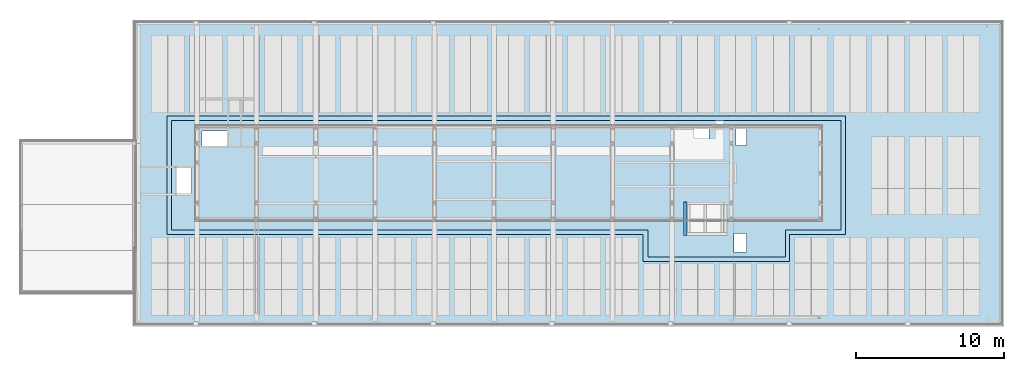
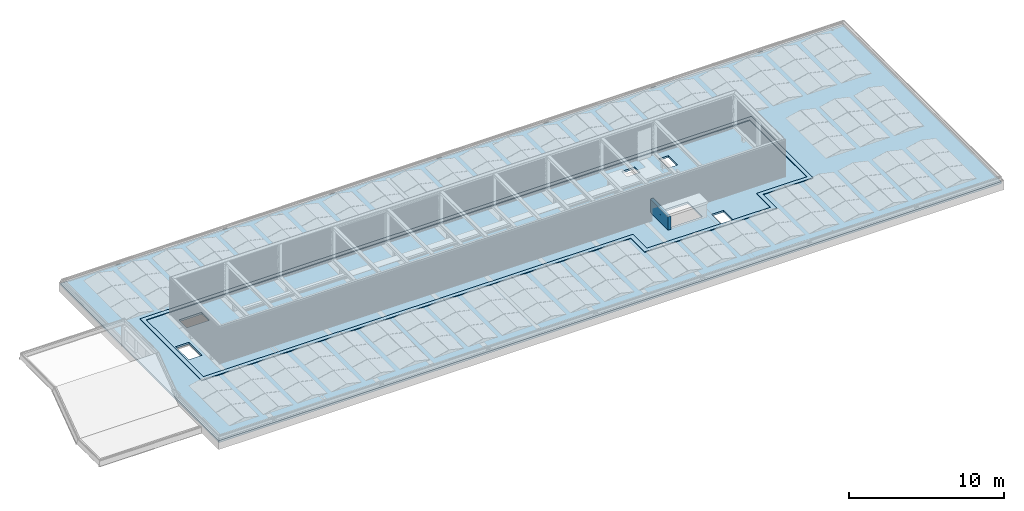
# One storey, part 15 of 63: 2 slabs, 1 wall, 6 openings.
"""IFC2X3 building model written with IfcOpenShell, lengths in millimetres."""

from ifc_helpers import new_model, entity, si_unit, converted_unit, derived_unit, money_unit, direction, frame, origin_with_axes, place, context, subcontext, project, spatial, faceted_brep, material, type_object, element, save


model = new_model("IFC2X3")

# Units and contexts
model_context = context("Model", 3, precision=0.01, world=origin_with_axes(), true_north=direction((0.0, 1.0)))
body_context = subcontext(model_context, "Body", "Model", "MODEL_VIEW")
ifc_project = project(units=[si_unit("LENGTHUNIT", "METRE", prefix="MILLI"), si_unit("AREAUNIT", "SQUARE_METRE"), si_unit("VOLUMEUNIT", "CUBIC_METRE"), converted_unit("PLANEANGLEUNIT", "DEGREE", entity("IfcPlaneAngleMeasure", 0.0174532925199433), si_unit("PLANEANGLEUNIT", "RADIAN"), dimensions=[0, 0, 0, 0, 0, 0, 0]), money_unit("EUR"), converted_unit("TIMEUNIT", "Year", entity("IfcTimeMeasure", 31557600.0), si_unit("TIMEUNIT", "SECOND"), dimensions=[0, 0, 1, 0, 0, 0, 0]), si_unit("MASSUNIT", "GRAM", prefix="KILO"), si_unit("THERMODYNAMICTEMPERATUREUNIT", "DEGREE_CELSIUS"), si_unit("LUMINOUSINTENSITYUNIT", "LUMEN"), si_unit("ENERGYUNIT", "JOULE", prefix="MEGA"), derived_unit("THERMALCONDUCTANCEUNIT", [(si_unit("POWERUNIT", "WATT"), 1), (si_unit("LENGTHUNIT", "METRE"), -1), (si_unit("THERMODYNAMICTEMPERATUREUNIT", "KELVIN"), -1)]), derived_unit("SPECIFICHEATCAPACITYUNIT", [(si_unit("ENERGYUNIT", "JOULE"), 1), (si_unit("MASSUNIT", "GRAM", prefix="KILO"), -1), (si_unit("THERMODYNAMICTEMPERATUREUNIT", "KELVIN"), -1)]), derived_unit("MASSDENSITYUNIT", [(si_unit("MASSUNIT", "GRAM", prefix="KILO"), 1), (si_unit("VOLUMEUNIT", "CUBIC_METRE"), -1)])], contexts=[model_context])

# Site, building, storey
site_placement = place(None, origin_with_axes())
site = spatial("IfcSite", under=ifc_project, at=site_placement, Name="<site naam>", CompositionType="ELEMENT")
building_placement = place(site_placement, origin_with_axes())
building = spatial("IfcBuilding", under=site, at=building_placement, Name="<Naam gebouw>", CompositionType="ELEMENT")
storey_placement = place(building_placement, frame((0.0, 0.0, 12770.0), z_axis=(0.0, 0.0, 1.0), x_axis=(1.0, 0.0, 0.0)))
storey = spatial("IfcBuildingStorey", under=building, at=storey_placement, Name="04 4e verdieping", CompositionType="ELEMENT", Elevation=12770.0)

# Slab, openings
ifc_material_1 = material(Name="beton_gewapend_vloer C")
slab_type_1 = type_object("IfcSlabType", Name="beton_gewapend_vloer C  150", PredefinedType="NOTDEFINED")
slab_1_placement = place(storey_placement, frame((70225.0, 20265.00000000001, -69.99998530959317), z_axis=(0.0, 0.0, 1.0), x_axis=(1.0, 0.0, 0.0)))
slab_1 = element("IfcSlab", 1, at=slab_1_placement, inside=storey, type_object=slab_type_1, material=ifc_material_1, Name="27_Vloer_beton_gewapend_vloer", PredefinedType="NOTDEFINED", context=body_context, shape_type="Brep", body=[
    faceted_brep([(0.0, 0.0, 0.0), (0.0, 0.0, -150.0000000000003), (-58487.99999999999, 0.0, -150.0000000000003), (-58487.99999999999, 0.0, 0.0), (0.0, -20518.00000000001, 0.0), (0.0, -20518.00000000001, -150.0000000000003), (-58487.99999999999, -20517.99999999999, -150.0000000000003), (-58487.99999999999, -20517.99999999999, 0.0)], [[[0, 1, 2, 3]], [[4, 5, 1, 0]], [[2, 1, 5, 6]], [[3, 2, 6, 7]], [[4, 0, 3, 7]], [[7, 6, 5, 4]]]),
])
opening_1_placement = place(slab_1_placement, frame((-70225.0, -20265.00000000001, -12700.00001469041), z_axis=(0.0, 0.0, 1.0), x_axis=(1.0, 0.0, 0.0)))
element("IfcOpeningElement", 2, at=opening_1_placement, cuts=slab_1, Name="27_Opening_", context=body_context, shape_type="Brep", body=[
    faceted_brep([(14625.00000000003, 8649.724088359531, 12850.00001469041), (14625.00000000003, 10349.72408835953, 12850.00001469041), (14625.00000000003, 10349.72408835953, 12400.00001469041), (14625.00000000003, 8649.724088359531, 12400.00001469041), (15625.00000000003, 8649.724088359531, 12850.00001469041), (15625.00000000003, 10349.72408835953, 12850.00001469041), (15625.00000000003, 10349.72408835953, 12400.00001469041), (15625.00000000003, 8649.724088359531, 12400.00001469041)], [[[0, 1, 2, 3]], [[0, 4, 5, 1]], [[1, 5, 6, 2]], [[3, 2, 6, 7]], [[4, 0, 3, 7]], [[5, 4, 7, 6]]]),
])
opening_2_placement = place(slab_1_placement, frame((-70225.0, -20265.00000000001, -12700.00001469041), z_axis=(0.0, 0.0, 1.0), x_axis=(1.0, 0.0, 0.0)))
element("IfcOpeningElement", 3, at=opening_2_placement, cuts=slab_1, Name="27_Opening_", context=body_context, shape_type="Brep", body=[
    faceted_brep([(50500.00007868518, 12344.09168282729, 12850.00001469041), (49500.00007868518, 12344.09168282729, 12850.00001469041), (49500.00007868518, 12344.09168282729, 12400.00001469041), (50500.00007868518, 12344.09168282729, 12400.00001469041), (50500.00007868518, 13044.09168282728, 12850.00001469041), (49500.00007868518, 13044.09168282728, 12850.00001469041), (49500.00007868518, 13044.09168282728, 12400.00001469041), (50500.00007868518, 13044.09168282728, 12400.00001469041)], [[[0, 1, 2, 3]], [[0, 4, 5, 1]], [[1, 5, 6, 2]], [[3, 2, 6, 7]], [[4, 0, 3, 7]], [[5, 4, 7, 6]]]),
])
opening_3_placement = place(slab_1_placement, frame((-70225.0, -20265.00000000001, -12700.00001469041), z_axis=(0.0, 0.0, 1.0), x_axis=(1.0, 0.0, 0.0)))
element("IfcOpeningElement", 4, at=opening_3_placement, cuts=slab_1, Name="27_Opening_", context=body_context, shape_type="Brep", body=[
    faceted_brep([(16325.00000000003, 11849.99999046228, 12850.00001469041), (16325.00000000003, 12849.99999046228, 12850.00001469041), (16325.00000000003, 12849.99999046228, 12400.00001469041), (16325.00000000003, 11849.99999046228, 12400.00001469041), (18025.00000000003, 11849.99999046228, 12850.00001469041), (18025.00000000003, 12849.99999046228, 12850.00001469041), (18025.00000000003, 12849.99999046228, 12400.00001469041), (18025.00000000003, 11849.99999046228, 12400.00001469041)], [[[0, 1, 2, 3]], [[0, 4, 5, 1]], [[1, 5, 6, 2]], [[3, 2, 6, 7]], [[4, 0, 3, 7]], [[5, 4, 7, 6]]]),
])
opening_4_placement = place(slab_1_placement, frame((-70225.0, -20265.00000000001, -12700.00001469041), z_axis=(0.0, 0.0, 1.0), x_axis=(1.0, 0.0, 0.0)))
element("IfcOpeningElement", 5, at=opening_4_placement, cuts=slab_1, Name="27_Opening_", context=body_context, shape_type="Brep", body=[
    faceted_brep([(49000.00000000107, 6004.99999853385, 12850.00001469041), (49000.00000000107, 7905.00000000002, 12850.00001469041), (49000.00000000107, 7905.00000000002, 12400.00001469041), (49000.00000000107, 6004.99999853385, 12400.00001469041), (51500.00000000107, 6004.99999853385, 12850.00001469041), (51500.00000000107, 7905.00000000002, 12850.00001469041), (51500.00000000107, 7905.00000000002, 12400.00001469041), (51500.00000000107, 6004.99999853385, 12400.00001469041)], [[[0, 1, 2, 3]], [[0, 4, 5, 1]], [[1, 5, 6, 2]], [[3, 2, 6, 7]], [[4, 0, 3, 7]], [[5, 4, 7, 6]]]),
])
opening_5_placement = place(slab_1_placement, frame((-70225.0, -20265.00000000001, -12700.00001469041), z_axis=(0.0, 0.0, 1.0), x_axis=(1.0, 0.0, 0.0)))
element("IfcOpeningElement", 6, at=opening_5_placement, cuts=slab_1, Name="27_Opening_", context=body_context, shape_type="Brep", body=[
    faceted_brep([(52325.00000000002, 11875.00000000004, 12850.00001469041), (52325.00000000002, 13075.00000000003, 12850.00001469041), (52325.00000000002, 13075.00000000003, 12400.00001469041), (52325.00000000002, 11875.00000000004, 12400.00001469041), (53025.00000000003, 11875.00000000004, 12850.00001469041), (53025.00000000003, 13075.00000000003, 12850.00001469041), (53025.00000000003, 13075.00000000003, 12400.00001469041), (53025.00000000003, 11875.00000000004, 12400.00001469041)], [[[0, 1, 2, 3]], [[0, 4, 5, 1]], [[1, 5, 6, 2]], [[3, 2, 6, 7]], [[4, 0, 3, 7]], [[5, 4, 7, 6]]]),
])
opening_6_placement = place(slab_1_placement, frame((-70225.0, -20265.00000000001, -12700.00001469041), z_axis=(0.0, 0.0, 1.0), x_axis=(1.0, 0.0, 0.0)))
element("IfcOpeningElement", 7, at=opening_6_placement, cuts=slab_1, Name="27_Opening_", context=body_context, shape_type="Brep", body=[
    faceted_brep([(52134.99988079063, 4679.999968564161, 12850.00001469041), (52134.99988079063, 5935.000000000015, 12850.00001469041), (52134.99988079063, 5935.000000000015, 12400.00001469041), (52134.99988079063, 4679.999968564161, 12400.00001469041), (53024.99994340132, 4679.999968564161, 12850.00001469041), (53024.99994340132, 5935.000000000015, 12850.00001469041), (53024.99994340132, 5935.000000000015, 12400.00001469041), (53024.99994340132, 4679.999968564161, 12400.00001469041)], [[[0, 1, 2, 3]], [[0, 4, 5, 1]], [[1, 5, 6, 2]], [[3, 2, 6, 7]], [[4, 0, 3, 7]], [[5, 4, 7, 6]]]),
])

# Slab
ifc_material_2 = material(Name="ALG - ALGEMEEN")
slab_type_2 = type_object("IfcSlabType", Name="ALG - ALGEMEEN 45", PredefinedType="NOTDEFINED")
slab_2_placement = place(storey_placement, frame((13983.974425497, 13862.49999999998, 179.9607845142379), z_axis=(0.0, 0.0, 1.0), x_axis=(1.0, 0.0, 0.0)))
element("IfcSlab", 8, at=slab_2_placement, inside=storey, type_object=slab_type_2, material=ifc_material_2, Name="47_Vloer_ALG", PredefinedType="NOTDEFINED", context=body_context, shape_type="Brep", body=[
    faceted_brep([(0.0, 0.0, 44.99999999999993), (0.0, 0.0, 0.0), (0.0, -7999.999999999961, 0.0), (0.0, -7999.999999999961, 44.99999999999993), (45699.97442549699, 0.0, 44.99999999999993), (45699.97442549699, 0.0, 0.0), (45699.97442549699, -7999.999999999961, 0.0), (41948.82557450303, -7999.999999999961, 0.0), (41948.82557450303, -9799.999999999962, 0.0), (32074.974425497, -9799.999999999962, 0.0), (32074.974425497, -7999.999999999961, 0.0), (45399.93332952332, -299.9636236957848, 0.0), (299.9744254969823, -299.9636236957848, 0.0), (299.9744254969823, -7699.985377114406, 0.0), (32399.81436679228, -7699.985377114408, 0.0), (32399.81436679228, -9499.983532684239, 0.0), (41648.85795812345, -9499.983532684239, 0.0), (41648.85795812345, -7699.985377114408, 0.0), (45399.93332952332, -7699.985377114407, 0.0), (32074.974425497, -7999.999999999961, 44.99999999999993), (32074.974425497, -9799.999999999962, 44.99999999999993), (41948.82557450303, -9799.999999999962, 44.99999999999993), (41948.82557450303, -7999.999999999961, 44.99999999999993), (45699.97442549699, -7999.999999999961, 44.99999999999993), (299.9744254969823, -7699.985377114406, 44.99999999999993), (299.9744254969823, -299.9636236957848, 44.99999999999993), (45399.93332952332, -299.9636236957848, 44.99999999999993), (45399.93332952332, -7699.985377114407, 44.99999999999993), (41648.85795812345, -7699.985377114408, 44.99999999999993), (41648.85795812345, -9499.983532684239, 44.99999999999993), (32399.81436679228, -9499.983532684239, 44.99999999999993), (32399.81436679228, -7699.985377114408, 44.99999999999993)], [[[0, 1, 2, 3]], [[4, 5, 1, 0]], [[2, 1, 5, 6, 7, 8, 9, 10], [11, 12, 13, 14, 15, 16, 17, 18]], [[3, 2, 10, 19]], [[4, 0, 3, 19, 20, 21, 22, 23], [24, 25, 26, 27, 28, 29, 30, 31]], [[23, 6, 5, 4]], [[22, 7, 6, 23]], [[21, 8, 7, 22]], [[20, 9, 8, 21]], [[19, 10, 9, 20]], [[25, 12, 11, 26]], [[24, 13, 12, 25]], [[31, 14, 13, 24]], [[30, 15, 14, 31]], [[29, 16, 15, 30]], [[28, 17, 16, 29]], [[27, 18, 17, 28]], [[26, 11, 18, 27]]]),
])

# Wall
ifc_material_3 = material(Name="kalkzandsteen")
wall_type = type_object("IfcWallType", Name="kalkzandsteen 214", PredefinedType="NOTDEFINED")
wall_placement = place(storey_placement, frame((49000.00000000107, 6004.99999853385, -70.00000000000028), z_axis=(0.0, 0.0, 1.0), x_axis=(0.0, 1.0, 0.0)))
element("IfcWall", 9, at=wall_placement, inside=storey, type_object=wall_type, material=ifc_material_3, Name="22_Binnenwand_kalkzandsteen", context=body_context, shape_type="Brep", body=[
    faceted_brep([(780.1132328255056, 213.9999999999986, 1080.352311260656), (780.1132328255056, 0.0, 1080.352311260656), (785.5551564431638, 0.0, 1072.906391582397), (785.5551564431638, 213.9999999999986, 1072.906391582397), (-214.0000000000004, 0.0, 1063.000000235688), (-214.0000000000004, 213.9999999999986, 1063.000000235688), (2050.0, 0.0, 1102.518267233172), (781.1473080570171, 0.0, 1080.370361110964), (786.0414875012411, 0.0, 1073.379405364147), (792.6291667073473, 0.0, 1064.639772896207), (794.999903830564, 0.0, 1053.955284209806), (792.6291690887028, 0.0, 1043.270795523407), (786.0414898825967, 0.0, 1034.531163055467), (780.1163846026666, 0.0, 1026.067609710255), (777.99990621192, 0.0, 1015.955284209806), (780.1163846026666, 0.0, 1005.842958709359), (786.0414898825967, 0.0, 997.3794053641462), (792.6291690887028, 0.0, 988.6397728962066), (794.9999062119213, 0.0, 977.9552842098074), (792.6291714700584, 0.0, 967.2707955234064), (786.0414922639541, 0.0, 958.5311630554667), (780.1163869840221, 0.0, 950.0676097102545), (777.9999085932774, 0.0, 939.9552842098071), (780.1163869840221, 0.0, 929.842958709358), (786.0414922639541, 0.0, 921.3794053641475), (792.6291714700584, 0.0, 912.6397728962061), (794.9999085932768, 0.0, 901.9552842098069), (792.6291738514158, 0.0, 891.2707955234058), (786.0414946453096, 0.0, 882.5311630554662), (780.1163893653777, 0.0, 874.0676097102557), (777.9999109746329, 0.0, 863.9552842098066), (780.1163893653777, 0.0, 853.8429587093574), (786.0414946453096, 0.0, 845.379405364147), (792.629173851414, 0.0, 836.6397728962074), (794.9999109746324, 0.0, 825.9552842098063), (792.6291762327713, 0.0, 815.2707955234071), (786.0414970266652, 0.0, 806.5311630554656), (780.1163917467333, 0.0, 798.0676097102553), (777.9999133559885, 0.0, 787.9552842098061), (780.1163917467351, 0.0, 777.8429587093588), (786.0414970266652, 0.0, 769.3794053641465), (792.6291762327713, 0.0, 760.6397728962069), (794.9999133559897, 0.0, 749.9552842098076), (792.6291762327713, 0.0, 739.2707955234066), (786.0414970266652, 0.0, 730.531163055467), (780.1163917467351, 0.0, 722.0676097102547), (777.9999133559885, 0.0, 711.9552842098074), (780.1163917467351, 0.0, 701.8429587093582), (786.0414970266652, 0.0, 693.3794053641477), (792.6291762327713, 0.0, 684.6397728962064), (794.9999133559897, 0.0, 673.9552842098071), (792.6291786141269, 0.0, 663.270795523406), (786.0414994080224, 0.0, 654.5311630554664), (780.1163941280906, 0.0, 646.067609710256), (777.9999157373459, 0.0, 635.9552842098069), (780.1163941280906, 0.0, 625.8429587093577), (786.0414994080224, 0.0, 617.3794053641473), (792.6291786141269, 0.0, 608.6397728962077), (794.9999157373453, 0.0, 597.9552842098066), (792.6291809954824, 0.0, 587.2707955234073), (786.041501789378, 0.0, 578.5311630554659), (780.1163965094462, 0.0, 570.0676097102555), (777.9999181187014, 0.0, 559.9552842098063), (780.1163965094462, 0.0, 549.842958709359), (786.041501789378, 0.0, 541.3794053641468), (792.6291809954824, 0.0, 532.6397728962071), (794.9999181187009, 0.0, 521.9552842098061), (792.6291833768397, 0.0, 511.2707955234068), (786.0415041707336, 0.0, 502.5311630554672), (780.1163988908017, 0.0, 494.067609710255), (777.999920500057, 0.0, 483.9552842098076), (780.1163988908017, 0.0, 473.8429587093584), (786.0415041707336, 0.0, 465.3794053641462), (792.6291833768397, 0.0, 456.6397728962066), (794.9999205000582, 0.0, 445.9552842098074), (792.6291857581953, 0.0, 435.2707955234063), (786.0415065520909, 0.0, 426.5311630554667), (780.1164012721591, 0.0, 418.0676097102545), (777.9999228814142, 0.0, 407.9552842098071), (780.1164012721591, 0.0, 397.842958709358), (786.0415065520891, 0.0, 389.3794053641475), (792.6291857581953, 0.0, 380.6397728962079), (794.9999228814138, 0.0, 369.9552842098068), (793.999920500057, 0.0, 369.9552842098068), (791.7751199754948, 0.0, 380.3209698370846), (785.55517549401, 0.0, 388.9063915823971), (779.2572815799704, 0.0, 397.5234938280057), (776.9999228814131, 0.0, 407.9552842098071), (779.2572815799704, 0.0, 418.3870745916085), (785.5551754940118, 0.0, 427.004176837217), (791.7751199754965, 0.0, 435.5895985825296), (793.9999181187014, 0.0, 445.9552842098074), (791.7751175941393, 0.0, 456.3209698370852), (785.5551731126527, 0.0, 464.9063915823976), (779.2572791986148, 0.0, 473.5234938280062), (776.9999205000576, 0.0, 483.9552842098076), (779.2572791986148, 0.0, 494.3870745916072), (785.5551731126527, 0.0, 503.0041768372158), (791.7751175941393, 0.0, 511.5895985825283), (793.9999157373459, 0.0, 521.9552842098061), (791.7751152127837, 0.0, 532.3209698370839), (785.5551707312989, 0.0, 540.9063915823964), (779.2572768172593, 0.0, 549.5234938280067), (776.999918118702, 0.0, 559.9552842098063), (779.2572768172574, 0.0, 570.3870745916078), (785.5551707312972, 0.0, 579.0041768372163), (791.7751152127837, 0.0, 587.5895985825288), (793.9999133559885, 0.0, 597.9552842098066), (791.7751128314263, 0.0, 608.3209698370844), (785.5551683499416, 0.0, 616.9063915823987), (779.2572744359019, 0.0, 625.5234938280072), (776.9999157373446, 0.0, 635.9552842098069), (779.2572744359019, 0.0, 646.3870745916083), (785.5551683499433, 0.0, 655.0041768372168), (791.7751128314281, 0.0, 663.5895985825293), (793.9999109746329, 0.0, 673.9552842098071), (791.7751104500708, 0.0, 684.3209698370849), (785.555165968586, 0.0, 692.9063915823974), (779.2572720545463, 0.0, 701.5234938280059), (776.9999133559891, 0.0, 711.9552842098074), (779.2572720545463, 0.0, 722.387074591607), (785.555165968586, 0.0, 731.0041768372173), (791.7751104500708, 0.0, 739.5895985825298), (793.9999109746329, 0.0, 749.9552842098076), (791.7751104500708, 0.0, 760.3209698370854), (785.555165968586, 0.0, 768.9063915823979), (779.2572720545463, 0.0, 777.5234938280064), (776.9999133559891, 0.0, 787.9552842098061), (779.2572720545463, 0.0, 798.3870745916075), (785.555165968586, 0.0, 807.004176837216), (791.7751104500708, 0.0, 815.5895985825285), (793.9999085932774, 0.0, 825.9552842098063), (791.7751080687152, 0.0, 836.3209698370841), (785.5551635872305, 0.0, 844.9063915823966), (779.2572696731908, 0.0, 853.5234938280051), (776.9999109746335, 0.0, 863.9552842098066), (779.2572696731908, 0.0, 874.387074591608), (785.5551635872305, 0.0, 883.0041768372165), (791.7751080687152, 0.0, 891.5895985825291), (793.9999062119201, 0.0, 901.9552842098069), (791.7751056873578, 0.0, 912.3209698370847), (785.5551612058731, 0.0, 920.9063915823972), (779.2572672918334, 0.0, 929.5234938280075), (776.9999085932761, 0.0, 939.9552842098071), (779.2572672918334, 0.0, 950.3870745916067), (785.5551612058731, 0.0, 959.0041768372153), (791.7751056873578, 0.0, 967.5895985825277), (793.9999038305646, 0.0, 977.9552842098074), (791.7751033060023, 0.0, 988.3209698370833), (785.5551588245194, 0.0, 996.9063915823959), (779.2572649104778, 0.0, 1005.523493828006), (776.9999062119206, 0.0, 1015.955284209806), (779.2572649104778, 0.0, 1026.387074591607), (785.5551588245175, 0.0, 1035.004176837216), (791.7751033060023, 0.0, 1043.589598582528), (793.999901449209, 0.0, 1053.955284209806), (791.7751009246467, 0.0, 1064.320969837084), (-214.0000000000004, 0.0, 0.0), (1900.0, 0.0, 0.0), (1900.0, 0.0, 70.00000000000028), (2050.0, 0.0, 70.00000000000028), (791.7751009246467, 213.9999999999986, 1064.320969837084), (781.1473080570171, 213.9999999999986, 1080.370361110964), (2050.0, 213.9999999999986, 1102.518267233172), (2050.0, 213.9999999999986, 70.00000000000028), (1900.0, 213.9999999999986, 70.00000000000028), (1900.0, 213.9999999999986, 0.0), (-214.0000000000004, 213.9999999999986, 0.0), (793.999901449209, 213.9999999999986, 1053.955284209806), (791.7751033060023, 213.9999999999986, 1043.589598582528), (785.5551588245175, 213.9999999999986, 1035.004176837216), (779.2572649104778, 213.9999999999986, 1026.387074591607), (776.9999062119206, 213.9999999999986, 1015.955284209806), (779.2572649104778, 213.9999999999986, 1005.523493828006), (785.5551588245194, 213.9999999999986, 996.9063915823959), (791.7751033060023, 213.9999999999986, 988.3209698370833), (793.9999038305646, 213.9999999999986, 977.9552842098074), (791.7751056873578, 213.9999999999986, 967.5895985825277), (785.5551612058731, 213.9999999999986, 959.0041768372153), (779.2572672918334, 213.9999999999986, 950.3870745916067), (776.9999085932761, 213.9999999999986, 939.9552842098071), (779.2572672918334, 213.9999999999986, 929.5234938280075), (785.5551612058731, 213.9999999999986, 920.9063915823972), (791.7751056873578, 213.9999999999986, 912.3209698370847), (793.9999062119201, 213.9999999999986, 901.9552842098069), (791.7751080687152, 213.9999999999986, 891.5895985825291), (785.5551635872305, 213.9999999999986, 883.0041768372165), (779.2572696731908, 213.9999999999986, 874.387074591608), (776.9999109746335, 213.9999999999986, 863.9552842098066), (779.2572696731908, 213.9999999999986, 853.5234938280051), (785.5551635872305, 213.9999999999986, 844.9063915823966), (791.7751080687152, 213.9999999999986, 836.3209698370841), (793.9999085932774, 213.9999999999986, 825.9552842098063), (791.7751104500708, 213.9999999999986, 815.5895985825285), (785.555165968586, 213.9999999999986, 807.004176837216), (779.2572720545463, 213.9999999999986, 798.3870745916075), (776.9999133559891, 213.9999999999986, 787.9552842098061), (779.2572720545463, 213.9999999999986, 777.5234938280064), (785.555165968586, 213.9999999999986, 768.9063915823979), (791.7751104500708, 213.9999999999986, 760.3209698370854), (793.9999109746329, 213.9999999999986, 749.9552842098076), (791.7751104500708, 213.9999999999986, 739.5895985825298), (785.555165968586, 213.9999999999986, 731.0041768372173), (779.2572720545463, 213.9999999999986, 722.387074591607), (776.9999133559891, 213.9999999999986, 711.9552842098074), (779.2572720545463, 213.9999999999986, 701.5234938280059), (785.555165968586, 213.9999999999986, 692.9063915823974), (791.7751104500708, 213.9999999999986, 684.3209698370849), (793.9999109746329, 213.9999999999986, 673.9552842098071), (791.7751128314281, 213.9999999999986, 663.5895985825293), (785.5551683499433, 213.9999999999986, 655.0041768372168), (779.2572744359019, 213.9999999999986, 646.3870745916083), (776.9999157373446, 213.9999999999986, 635.9552842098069), (779.2572744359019, 213.9999999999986, 625.5234938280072), (785.5551683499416, 213.9999999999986, 616.9063915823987), (791.7751128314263, 213.9999999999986, 608.3209698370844), (793.9999133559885, 213.9999999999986, 597.9552842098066), (791.7751152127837, 213.9999999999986, 587.5895985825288), (785.5551707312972, 213.9999999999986, 579.0041768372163), (779.2572768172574, 213.9999999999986, 570.3870745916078), (776.999918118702, 213.9999999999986, 559.9552842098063), (779.2572768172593, 213.9999999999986, 549.5234938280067), (785.5551707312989, 213.9999999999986, 540.9063915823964), (791.7751152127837, 213.9999999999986, 532.3209698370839), (793.9999157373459, 213.9999999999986, 521.9552842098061), (791.7751175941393, 213.9999999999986, 511.5895985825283), (785.5551731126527, 213.9999999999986, 503.0041768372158), (779.2572791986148, 213.9999999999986, 494.3870745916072), (776.9999205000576, 213.9999999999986, 483.9552842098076), (779.2572791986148, 213.9999999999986, 473.5234938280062), (785.5551731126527, 213.9999999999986, 464.9063915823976), (791.7751175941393, 213.9999999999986, 456.3209698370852), (793.9999181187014, 213.9999999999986, 445.9552842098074), (791.7751199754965, 213.9999999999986, 435.5895985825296), (785.5551754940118, 213.9999999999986, 427.004176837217), (779.2572815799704, 213.9999999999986, 418.3870745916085), (776.9999228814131, 213.9999999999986, 407.9552842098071), (779.2572815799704, 213.9999999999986, 397.5234938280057), (785.55517549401, 213.9999999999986, 388.9063915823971), (791.7751199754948, 213.9999999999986, 380.3209698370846), (793.999920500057, 213.9999999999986, 369.9552842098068), (794.9999228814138, 213.9999999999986, 369.9552842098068), (792.6291857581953, 213.9999999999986, 380.6397728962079), (786.0415065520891, 213.9999999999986, 389.3794053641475), (780.1164012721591, 213.9999999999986, 397.842958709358), (777.9999228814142, 213.9999999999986, 407.9552842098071), (780.1164012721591, 213.9999999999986, 418.0676097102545), (786.0415065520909, 213.9999999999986, 426.5311630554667), (792.6291857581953, 213.9999999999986, 435.2707955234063), (794.9999205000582, 213.9999999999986, 445.9552842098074), (792.6291833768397, 213.9999999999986, 456.6397728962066), (786.0415041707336, 213.9999999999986, 465.3794053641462), (780.1163988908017, 213.9999999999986, 473.8429587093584), (777.999920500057, 213.9999999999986, 483.9552842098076), (780.1163988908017, 213.9999999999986, 494.067609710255), (786.0415041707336, 213.9999999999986, 502.5311630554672), (792.6291833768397, 213.9999999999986, 511.2707955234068), (794.9999181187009, 213.9999999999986, 521.9552842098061), (792.6291809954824, 213.9999999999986, 532.6397728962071), (786.041501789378, 213.9999999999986, 541.3794053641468), (780.1163965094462, 213.9999999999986, 549.842958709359), (777.9999181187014, 213.9999999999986, 559.9552842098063), (780.1163965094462, 213.9999999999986, 570.0676097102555), (786.041501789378, 213.9999999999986, 578.5311630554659), (792.6291809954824, 213.9999999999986, 587.2707955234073), (794.9999157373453, 213.9999999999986, 597.9552842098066), (792.6291786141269, 213.9999999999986, 608.6397728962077), (786.0414994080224, 213.9999999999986, 617.3794053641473), (780.1163941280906, 213.9999999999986, 625.8429587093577), (777.9999157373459, 213.9999999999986, 635.9552842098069), (780.1163941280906, 213.9999999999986, 646.067609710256), (786.0414994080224, 213.9999999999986, 654.5311630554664), (792.6291786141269, 213.9999999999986, 663.270795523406), (794.9999133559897, 213.9999999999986, 673.9552842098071), (792.6291762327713, 213.9999999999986, 684.6397728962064), (786.0414970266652, 213.9999999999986, 693.3794053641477), (780.1163917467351, 213.9999999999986, 701.8429587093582), (777.9999133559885, 213.9999999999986, 711.9552842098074), (780.1163917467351, 213.9999999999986, 722.0676097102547), (786.0414970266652, 213.9999999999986, 730.531163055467), (792.6291762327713, 213.9999999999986, 739.2707955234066), (794.9999133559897, 213.9999999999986, 749.9552842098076), (792.6291762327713, 213.9999999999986, 760.6397728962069), (786.0414970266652, 213.9999999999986, 769.3794053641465), (780.1163917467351, 213.9999999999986, 777.8429587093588), (777.9999133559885, 213.9999999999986, 787.9552842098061), (780.1163917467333, 213.9999999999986, 798.0676097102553), (786.0414970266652, 213.9999999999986, 806.5311630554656), (792.6291762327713, 213.9999999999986, 815.2707955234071), (794.9999109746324, 213.9999999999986, 825.9552842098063), (792.629173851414, 213.9999999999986, 836.6397728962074), (786.0414946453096, 213.9999999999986, 845.379405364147), (780.1163893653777, 213.9999999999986, 853.8429587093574), (777.9999109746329, 213.9999999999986, 863.9552842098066), (780.1163893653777, 213.9999999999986, 874.0676097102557), (786.0414946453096, 213.9999999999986, 882.5311630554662), (792.6291738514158, 213.9999999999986, 891.2707955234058), (794.9999085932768, 213.9999999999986, 901.9552842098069), (792.6291714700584, 213.9999999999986, 912.6397728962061), (786.0414922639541, 213.9999999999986, 921.3794053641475), (780.1163869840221, 213.9999999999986, 929.842958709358), (777.9999085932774, 213.9999999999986, 939.9552842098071), (780.1163869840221, 213.9999999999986, 950.0676097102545), (786.0414922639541, 213.9999999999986, 958.5311630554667), (792.6291714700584, 213.9999999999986, 967.2707955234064), (794.9999062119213, 213.9999999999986, 977.9552842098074), (792.6291690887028, 213.9999999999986, 988.6397728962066), (786.0414898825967, 213.9999999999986, 997.3794053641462), (780.1163846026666, 213.9999999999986, 1005.842958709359), (777.99990621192, 213.9999999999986, 1015.955284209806), (780.1163846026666, 213.9999999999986, 1026.067609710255), (786.0414898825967, 213.9999999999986, 1034.531163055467), (792.6291690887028, 213.9999999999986, 1043.270795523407), (794.999903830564, 213.9999999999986, 1053.955284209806), (792.6291667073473, 213.9999999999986, 1064.639772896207), (786.0414875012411, 213.9999999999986, 1073.379405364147)], [[[0, 1, 2, 3]], [[4, 1, 0, 5]], [[6, 7, 8, 9, 10, 11, 12, 13, 14, 15, 16, 17, 18, 19, 20, 21, 22, 23, 24, 25, 26, 27, 28, 29, 30, 31, 32, 33, 34, 35, 36, 37, 38, 39, 40, 41, 42, 43, 44, 45, 46, 47, 48, 49, 50, 51, 52, 53, 54, 55, 56, 57, 58, 59, 60, 61, 62, 63, 64, 65, 66, 67, 68, 69, 70, 71, 72, 73, 74, 75, 76, 77, 78, 79, 80, 81, 82, 83, 84, 85, 86, 87, 88, 89, 90, 91, 92, 93, 94, 95, 96, 97, 98, 99, 100, 101, 102, 103, 104, 105, 106, 107, 108, 109, 110, 111, 112, 113, 114, 115, 116, 117, 118, 119, 120, 121, 122, 123, 124, 125, 126, 127, 128, 129, 130, 131, 132, 133, 134, 135, 136, 137, 138, 139, 140, 141, 142, 143, 144, 145, 146, 147, 148, 149, 150, 151, 152, 153, 154, 155, 156, 2, 1, 4, 157, 158, 159, 160]], [[161, 3, 2, 156]], [[162, 163, 164, 165, 166, 167, 5, 0, 3, 161, 168, 169, 170, 171, 172, 173, 174, 175, 176, 177, 178, 179, 180, 181, 182, 183, 184, 185, 186, 187, 188, 189, 190, 191, 192, 193, 194, 195, 196, 197, 198, 199, 200, 201, 202, 203, 204, 205, 206, 207, 208, 209, 210, 211, 212, 213, 214, 215, 216, 217, 218, 219, 220, 221, 222, 223, 224, 225, 226, 227, 228, 229, 230, 231, 232, 233, 234, 235, 236, 237, 238, 239, 240, 241, 242, 243, 244, 245, 246, 247, 248, 249, 250, 251, 252, 253, 254, 255, 256, 257, 258, 259, 260, 261, 262, 263, 264, 265, 266, 267, 268, 269, 270, 271, 272, 273, 274, 275, 276, 277, 278, 279, 280, 281, 282, 283, 284, 285, 286, 287, 288, 289, 290, 291, 292, 293, 294, 295, 296, 297, 298, 299, 300, 301, 302, 303, 304, 305, 306, 307, 308, 309, 310, 311, 312, 313, 314, 315]], [[4, 5, 167, 157]], [[7, 6, 163, 162]], [[7, 162, 315, 8]], [[315, 314, 9, 8]], [[9, 314, 313, 10]], [[312, 11, 10, 313]], [[312, 311, 12, 11]], [[311, 310, 13, 12]], [[310, 309, 14, 13]], [[308, 15, 14, 309]], [[308, 307, 16, 15]], [[307, 306, 17, 16]], [[17, 306, 305, 18]], [[304, 19, 18, 305]], [[304, 303, 20, 19]], [[303, 302, 21, 20]], [[302, 301, 22, 21]], [[300, 23, 22, 301]], [[300, 299, 24, 23]], [[299, 298, 25, 24]], [[25, 298, 297, 26]], [[296, 27, 26, 297]], [[296, 295, 28, 27]], [[295, 294, 29, 28]], [[294, 293, 30, 29]], [[292, 31, 30, 293]], [[292, 291, 32, 31]], [[291, 290, 33, 32]], [[33, 290, 289, 34]], [[288, 35, 34, 289]], [[288, 287, 36, 35]], [[287, 286, 37, 36]], [[286, 285, 38, 37]], [[284, 39, 38, 285]], [[284, 283, 40, 39]], [[283, 282, 41, 40]], [[41, 282, 281, 42]], [[280, 43, 42, 281]], [[280, 279, 44, 43]], [[279, 278, 45, 44]], [[278, 277, 46, 45]], [[276, 47, 46, 277]], [[276, 275, 48, 47]], [[275, 274, 49, 48]], [[49, 274, 273, 50]], [[272, 51, 50, 273]], [[272, 271, 52, 51]], [[271, 270, 53, 52]], [[270, 269, 54, 53]], [[268, 55, 54, 269]], [[268, 267, 56, 55]], [[267, 266, 57, 56]], [[57, 266, 265, 58]], [[264, 59, 58, 265]], [[264, 263, 60, 59]], [[263, 262, 61, 60]], [[262, 261, 62, 61]], [[260, 63, 62, 261]], [[260, 259, 64, 63]], [[259, 258, 65, 64]], [[65, 258, 257, 66]], [[256, 67, 66, 257]], [[256, 255, 68, 67]], [[255, 254, 69, 68]], [[254, 253, 70, 69]], [[252, 71, 70, 253]], [[252, 251, 72, 71]], [[251, 250, 73, 72]], [[73, 250, 249, 74]], [[248, 75, 74, 249]], [[248, 247, 76, 75]], [[247, 246, 77, 76]], [[246, 245, 78, 77]], [[244, 79, 78, 245]], [[244, 243, 80, 79]], [[243, 242, 81, 80]], [[242, 241, 82, 81]], [[241, 240, 83, 82]], [[240, 239, 84, 83]], [[239, 238, 85, 84]], [[238, 237, 86, 85]], [[86, 237, 236, 87]], [[236, 235, 88, 87]], [[235, 234, 89, 88]], [[234, 233, 90, 89]], [[90, 233, 232, 91]], [[232, 231, 92, 91]], [[231, 230, 93, 92]], [[230, 229, 94, 93]], [[94, 229, 228, 95]], [[228, 227, 96, 95]], [[227, 226, 97, 96]], [[226, 225, 98, 97]], [[98, 225, 224, 99]], [[224, 223, 100, 99]], [[223, 222, 101, 100]], [[222, 221, 102, 101]], [[102, 221, 220, 103]], [[220, 219, 104, 103]], [[219, 218, 105, 104]], [[218, 217, 106, 105]], [[106, 217, 216, 107]], [[216, 215, 108, 107]], [[215, 214, 109, 108]], [[214, 213, 110, 109]], [[110, 213, 212, 111]], [[212, 211, 112, 111]], [[211, 210, 113, 112]], [[210, 209, 114, 113]], [[114, 209, 208, 115]], [[208, 207, 116, 115]], [[207, 206, 117, 116]], [[206, 205, 118, 117]], [[118, 205, 204, 119]], [[204, 203, 120, 119]], [[203, 202, 121, 120]], [[202, 201, 122, 121]], [[122, 201, 200, 123]], [[200, 199, 124, 123]], [[199, 198, 125, 124]], [[198, 197, 126, 125]], [[126, 197, 196, 127]], [[196, 195, 128, 127]], [[195, 194, 129, 128]], [[194, 193, 130, 129]], [[130, 193, 192, 131]], [[192, 191, 132, 131]], [[191, 190, 133, 132]], [[190, 189, 134, 133]], [[134, 189, 188, 135]], [[188, 187, 136, 135]], [[187, 186, 137, 136]], [[186, 185, 138, 137]], [[138, 185, 184, 139]], [[184, 183, 140, 139]], [[183, 182, 141, 140]], [[182, 181, 142, 141]], [[142, 181, 180, 143]], [[180, 179, 144, 143]], [[179, 178, 145, 144]], [[178, 177, 146, 145]], [[146, 177, 176, 147]], [[176, 175, 148, 147]], [[175, 174, 149, 148]], [[174, 173, 150, 149]], [[150, 173, 172, 151]], [[172, 171, 152, 151]], [[171, 170, 153, 152]], [[170, 169, 154, 153]], [[154, 169, 168, 155]], [[168, 161, 156, 155]], [[157, 167, 166, 158]], [[165, 159, 158, 166]], [[159, 165, 164, 160]], [[163, 6, 160, 164]]]),
])

save(model, "model.ifc")
